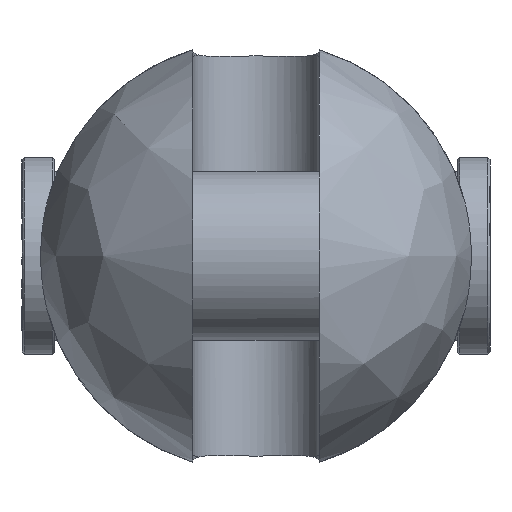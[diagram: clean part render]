
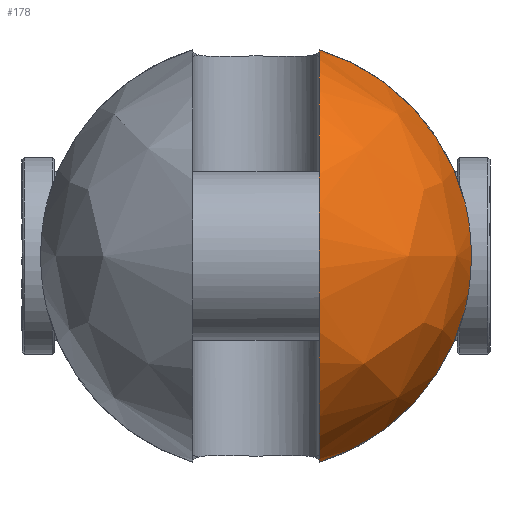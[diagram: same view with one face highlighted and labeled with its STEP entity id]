
A CAD part, left-side view. The second image highlights one B-rep face of the part: STEP entity #178.
In plain terms, the highlighted free-form (B-spline) face has degree [2, 2] with [9, 5] control points.
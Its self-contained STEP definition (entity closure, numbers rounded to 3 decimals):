
#178=ADVANCED_FACE('',(#318),#2409,.T.);
#318=FACE_OUTER_BOUND('',#478,.T.);
#478=EDGE_LOOP('',(#1189,#1190,#1191,#1192));
#1189=ORIENTED_EDGE('',*,*,#1569,.T.);
#1190=ORIENTED_EDGE('',*,*,#1597,.F.);
#1191=ORIENTED_EDGE('',*,*,#1609,.T.);
#1192=ORIENTED_EDGE('',*,*,#1589,.F.);
#1569=EDGE_CURVE('',#2242,#2241,#1976,.T.);
#1589=EDGE_CURVE('',#2242,#2254,#1986,.T.);
#1597=EDGE_CURVE('',#2261,#2241,#1987,.T.);
#1609=EDGE_CURVE('',#2261,#2254,#1782,.T.);
#1782=B_SPLINE_CURVE_WITH_KNOTS('',3,(#6087,#6088,#6089,#6090,#6091,#6092,
#6093,#6094,#6095,#6096,#6097,#6098,#6099,#6100),.UNSPECIFIED.,.F.,.F.,
(4,2,2,2,2,2,4),(0.,1.151,6.447,11.742,
17.038,22.334,23.485),.UNSPECIFIED.);
#1976=(
BOUNDED_CURVE()
B_SPLINE_CURVE(2,(#5855,#5856,#5857,#5858,#5859),.UNSPECIFIED.,.F.,.F.)
B_SPLINE_CURVE_WITH_KNOTS((3,2,3),(-138.15,-69.075,
0.),.UNSPECIFIED.)
CURVE()
GEOMETRIC_REPRESENTATION_ITEM()
RATIONAL_B_SPLINE_CURVE((1.,0.707,1.,0.707,1.))
REPRESENTATION_ITEM('')
);
#1986=(
BOUNDED_CURVE()
B_SPLINE_CURVE(2,(#5957,#5958,#5959),.UNSPECIFIED.,.F.,.F.)
B_SPLINE_CURVE_WITH_KNOTS((3,3),(0.,47.354),.UNSPECIFIED.)
CURVE()
GEOMETRIC_REPRESENTATION_ITEM()
RATIONAL_B_SPLINE_CURVE((1.,0.87,1.))
REPRESENTATION_ITEM('')
);
#1987=(
BOUNDED_CURVE()
B_SPLINE_CURVE(2,(#6014,#6015,#6016),.UNSPECIFIED.,.F.,.F.)
B_SPLINE_CURVE_WITH_KNOTS((3,3),(0.,47.354),.UNSPECIFIED.)
CURVE()
GEOMETRIC_REPRESENTATION_ITEM()
RATIONAL_B_SPLINE_CURVE((1.,0.87,1.))
REPRESENTATION_ITEM('')
);
#2241=VERTEX_POINT('',#5739);
#2242=VERTEX_POINT('',#5740);
#2254=VERTEX_POINT('',#5752);
#2261=VERTEX_POINT('',#5759);
#2409=(
BOUNDED_SURFACE()
B_SPLINE_SURFACE(2,2,((#5453,#5454,#5455,#5456,#5457),(#5458,#5459,#5460,
#5461,#5462),(#5463,#5464,#5465,#5466,#5467),(#5468,#5469,#5470,#5471,#5472),
(#5473,#5474,#5475,#5476,#5477),(#5478,#5479,#5480,#5481,#5482),(#5483,
#5484,#5485,#5486,#5487),(#5488,#5489,#5490,#5491,#5492),(#5493,#5494,#5495,
#5496,#5497)),.UNSPECIFIED.,.T.,.F.,.F.)
B_SPLINE_SURFACE_WITH_KNOTS((3,2,2,2,3),(3,2,3),(0.,72.257,144.513,
216.77,289.027),(0.,72.257,144.513),
 .UNSPECIFIED.)
GEOMETRIC_REPRESENTATION_ITEM()
RATIONAL_B_SPLINE_SURFACE(((1.,0.707,1.,0.707,1.),
(0.707,0.5,0.707,0.5,0.707),(1.,0.707,
1.,0.707,1.),(0.707,0.5,0.707,0.5,0.707),
(1.,0.707,1.,0.707,1.),(0.707,0.5,0.707,
0.5,0.707),(1.,0.707,1.,0.707,1.),(0.707,
0.5,0.707,0.5,0.707),(1.,0.707,1.,0.707,
1.)))
REPRESENTATION_ITEM('')
SURFACE()
);
#5453=CARTESIAN_POINT('',(-65.,0.,0.));
#5454=CARTESIAN_POINT('',(-65.,46.,0.));
#5455=CARTESIAN_POINT('',(-19.,46.,0.));
#5456=CARTESIAN_POINT('',(27.,46.,0.));
#5457=CARTESIAN_POINT('',(27.,0.,0.));
#5458=CARTESIAN_POINT('',(-65.,0.,0.));
#5459=CARTESIAN_POINT('',(-65.,46.,46.));
#5460=CARTESIAN_POINT('',(-19.,46.,46.));
#5461=CARTESIAN_POINT('',(27.,46.,46.));
#5462=CARTESIAN_POINT('',(27.,0.,0.));
#5463=CARTESIAN_POINT('',(-65.,0.,0.));
#5464=CARTESIAN_POINT('',(-65.,0.,46.));
#5465=CARTESIAN_POINT('',(-19.,0.,46.));
#5466=CARTESIAN_POINT('',(27.,0.,46.));
#5467=CARTESIAN_POINT('',(27.,0.,0.));
#5468=CARTESIAN_POINT('',(-65.,0.,0.));
#5469=CARTESIAN_POINT('',(-65.,-46.,46.));
#5470=CARTESIAN_POINT('',(-19.,-46.,46.));
#5471=CARTESIAN_POINT('',(27.,-46.,46.));
#5472=CARTESIAN_POINT('',(27.,0.,0.));
#5473=CARTESIAN_POINT('',(-65.,0.,0.));
#5474=CARTESIAN_POINT('',(-65.,-46.,0.));
#5475=CARTESIAN_POINT('',(-19.,-46.,0.));
#5476=CARTESIAN_POINT('',(27.,-46.,0.));
#5477=CARTESIAN_POINT('',(27.,0.,0.));
#5478=CARTESIAN_POINT('',(-65.,0.,0.));
#5479=CARTESIAN_POINT('',(-65.,-46.,-46.));
#5480=CARTESIAN_POINT('',(-19.,-46.,-46.));
#5481=CARTESIAN_POINT('',(27.,-46.,-46.));
#5482=CARTESIAN_POINT('',(27.,0.,0.));
#5483=CARTESIAN_POINT('',(-65.,0.,0.));
#5484=CARTESIAN_POINT('',(-65.,0.,-46.));
#5485=CARTESIAN_POINT('',(-19.,0.,-46.));
#5486=CARTESIAN_POINT('',(27.,0.,-46.));
#5487=CARTESIAN_POINT('',(27.,0.,0.));
#5488=CARTESIAN_POINT('',(-65.,0.,0.));
#5489=CARTESIAN_POINT('',(-65.,46.,-46.));
#5490=CARTESIAN_POINT('',(-19.,46.,-46.));
#5491=CARTESIAN_POINT('',(27.,46.,-46.));
#5492=CARTESIAN_POINT('',(27.,0.,0.));
#5493=CARTESIAN_POINT('',(-65.,0.,0.));
#5494=CARTESIAN_POINT('',(-65.,46.,0.));
#5495=CARTESIAN_POINT('',(-19.,46.,0.));
#5496=CARTESIAN_POINT('',(27.,46.,0.));
#5497=CARTESIAN_POINT('',(27.,0.,0.));
#5739=CARTESIAN_POINT('',(-19.,-13.5,-43.974));
#5740=CARTESIAN_POINT('',(-19.,-13.5,43.974));
#5752=CARTESIAN_POINT('',(-19.,-44.643,11.091));
#5759=CARTESIAN_POINT('',(-19.,-44.643,-11.091));
#5855=CARTESIAN_POINT('',(-19.,-13.5,43.974));
#5856=CARTESIAN_POINT('',(-62.974,-13.5,43.974));
#5857=CARTESIAN_POINT('',(-62.974,-13.5,0.));
#5858=CARTESIAN_POINT('',(-62.974,-13.5,-43.974));
#5859=CARTESIAN_POINT('',(-19.,-13.5,-43.974));
#5957=CARTESIAN_POINT('',(-19.,-13.5,43.974));
#5958=CARTESIAN_POINT('',(-19.,-38.371,36.339));
#5959=CARTESIAN_POINT('',(-19.,-44.643,11.091));
#6014=CARTESIAN_POINT('',(-19.,-44.643,-11.091));
#6015=CARTESIAN_POINT('',(-19.,-38.371,-36.339));
#6016=CARTESIAN_POINT('',(-19.,-13.5,-43.974));
#6087=CARTESIAN_POINT('',(-19.,-44.643,-11.091));
#6088=CARTESIAN_POINT('',(-19.191,-44.724,-10.763));
#6089=CARTESIAN_POINT('',(-19.374,-44.802,-10.43));
#6090=CARTESIAN_POINT('',(-20.351,-45.216,-8.538));
#6091=CARTESIAN_POINT('',(-20.972,-45.475,-6.873));
#6092=CARTESIAN_POINT('',(-21.797,-45.818,-3.461));
#6093=CARTESIAN_POINT('',(-22.,-45.902,-1.713));
#6094=CARTESIAN_POINT('',(-22.,-45.902,1.713));
#6095=CARTESIAN_POINT('',(-21.797,-45.818,3.461));
#6096=CARTESIAN_POINT('',(-20.972,-45.475,6.873));
#6097=CARTESIAN_POINT('',(-20.351,-45.216,8.538));
#6098=CARTESIAN_POINT('',(-19.374,-44.802,10.43));
#6099=CARTESIAN_POINT('',(-19.191,-44.724,10.763));
#6100=CARTESIAN_POINT('',(-19.,-44.643,11.091));
